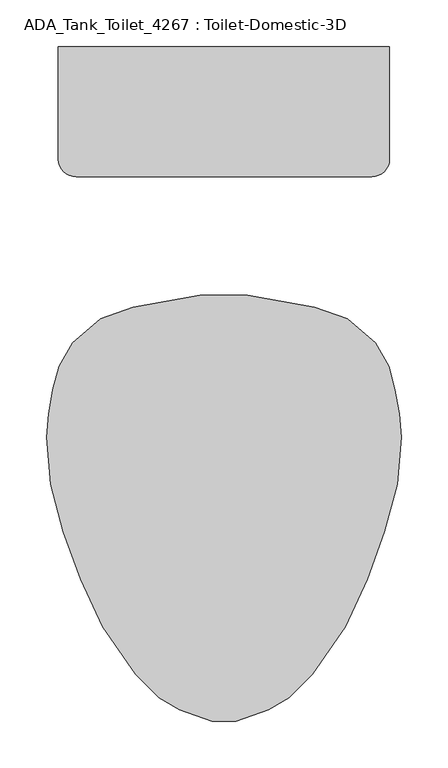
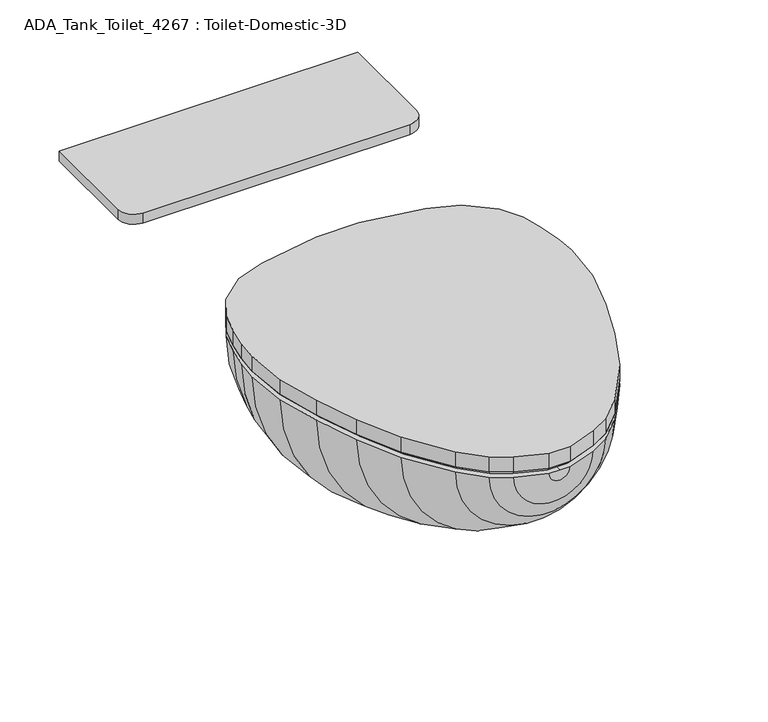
"""IFC4 building model written with IfcOpenShell, lengths in millimetres: flow terminal geometry, ADA_Tank_Toilet_4267 : Toilet-Domestic-3D."""

from ifc_helpers import new_model, si_unit, point, frame, frame_2d, origin, place, context, project, spatial, polyline, circle_curve, trimmed, segment, composite_curve, outline, extrude, faceted_brep, source, transform, mapped, element, save
from ifc_brep_helpers import plane_surface, revolved_surface, advanced_brep


def ada_tank_toilet_4267_toilet_domestic_3d_e2a5b10f(model_context):
    return source(origin(), model_context, "Body", "SolidModel", [
        advanced_brep(
        [(-25.4, 152.4, 444.5), (-97.4252791, 139.7, 444.5), (-132.3182423, 127.0, 444.5), (-162.5887836, 101.6, 444.5), (-176.9845865, 76.2, 444.5), (-183.790496, 50.8, 444.5), (-188.2862441, 25.3033453, 444.5), (-190.5, 0.0, 444.5), (-186.0724883, -50.6066907, 444.5), (-172.4088722, -101.6, 444.5), (-153.9191843, -152.4, 444.5), (-130.2307553, -203.2, 444.5), (-94.9900085, -254.0, 444.5), (-69.5900085, -279.4, 444.5), (-47.5929632, -292.1, 444.5), (-12.7, -304.8, 444.5), (0.0, -304.8, 444.5), (0.0, -284.592034, 444.5), (-12.5224565, -284.592034, 444.5), (-39.5113323, -274.7688865, 444.5), (-58.4178985, -263.8531754, 444.5), (-79.2146703, -243.0564036, 444.5), (-114.0255101, -192.8761202, 444.5), (-136.654021, -144.3491221, 444.5), (-154.575847, -95.1093097, 444.5), (-167.7238545, -46.0402777, 444.5), (-171.5645445, -2.1409906, 444.5), (-169.3087351, 23.6430284, 444.5), (-165.101298, 47.5045901, 444.5), (-159.5484355, 68.2281551, 444.5), (-146.1085923, 90.5605136, 444.5), (-121.9980886, 110.7916284, 444.5), (-94.1172813, 120.9394123, 444.5), (-22.0920022, 133.6394123, 444.5), (0.0, 133.6394123, 444.5), (0.0, 152.4, 444.5), (25.4, 152.4, 444.5), (22.0920022, 133.6394123, 444.5), (94.1172813, 120.9394123, 444.5), (121.9980886, 110.7916284, 444.5), (146.1085923, 90.5605136, 444.5), (159.5484355, 68.2281551, 444.5), (165.101298, 47.5045901, 444.5), (169.3087351, 23.6430284, 444.5), (171.5645445, -2.1409906, 444.5), (167.7238545, -46.0402777, 444.5), (154.575847, -95.1093097, 444.5), (136.654021, -144.3491221, 444.5), (114.0255101, -192.8761202, 444.5), (79.2146703, -243.0564036, 444.5), (58.4178985, -263.8531754, 444.5), (39.5113323, -274.7688865, 444.5), (12.5224565, -284.592034, 444.5), (12.7, -304.8, 444.5), (47.5929632, -292.1, 444.5), (69.5900085, -279.4, 444.5), (94.9900085, -254.0, 444.5), (130.2307553, -203.2, 444.5), (153.9191843, -152.4, 444.5), (172.4088722, -101.6, 444.5), (186.0724883, -50.6066907, 444.5), (190.5, 0.0, 444.5), (188.2862441, 25.3033453, 444.5), (183.790496, 50.8, 444.5), (176.9845865, 76.2, 444.5), (162.5887836, 101.6, 444.5), (132.3182423, 127.0, 444.5), (97.4252791, 139.7, 444.5)],
        [
            (0, 1),
            (1, 2),
            (2, 3),
            (3, 4),
            (4, 5),
            (5, 6),
            (6, 7),
            (7, 8),
            (8, 9),
            (9, 10),
            (10, 11),
            (11, 12),
            (12, 13),
            (13, 14),
            (14, 15),
            (15, 16),
            (16, 17),
            (17, 18),
            (18, 19),
            (19, 20),
            (20, 21),
            (21, 22),
            (22, 23),
            (23, 24),
            (24, 25),
            (25, 26),
            (26, 27),
            (27, 28),
            (28, 29),
            (29, 30),
            (30, 31),
            (31, 32),
            (32, 33),
            (33, 34),
            (34, 35),
            (35, 0),
            (36, 35),
            (34, 37),
            (37, 38),
            (38, 39),
            (39, 40),
            (40, 41),
            (41, 42),
            (42, 43),
            (43, 44),
            (44, 45),
            (45, 46),
            (46, 47),
            (47, 48),
            (48, 49),
            (49, 50),
            (50, 51),
            (51, 52),
            (52, 17),
            (16, 53),
            (53, 54),
            (54, 55),
            (55, 56),
            (56, 57),
            (57, 58),
            (58, 59),
            (59, 60),
            (60, 61),
            (61, 62),
            (62, 63),
            (63, 64),
            (64, 65),
            (65, 66),
            (66, 67),
            (67, 36),
            (67, 1, circle_curve(frame((0.0, 139.7, 444.5), z_axis=(0.0, 1.0, 0.0), x_axis=(-1.0, 0.0, 0.0)), 97.4252791)),
            (0, 36, circle_curve(frame((0.0, 152.4, 444.5), z_axis=(0.0, -1.0, 0.0), x_axis=(-1.0, 0.0, 0.0)), 25.4)),
            (66, 2, circle_curve(frame((0.0, 127.0, 444.5), z_axis=(0.0, 1.0, 0.0), x_axis=(-1.0, 0.0, 0.0)), 132.3182423)),
            (65, 3, circle_curve(frame((0.0, 101.6, 444.5), z_axis=(0.0, 1.0, 0.0), x_axis=(-1.0, 0.0, 0.0)), 162.5887836)),
            (64, 4, circle_curve(frame((0.0, 76.2, 444.5), z_axis=(0.0, 1.0, 0.0), x_axis=(-1.0, 0.0, 0.0)), 176.9845865)),
            (63, 5, circle_curve(frame((0.0, 50.8, 444.5), z_axis=(0.0, 1.0, 0.0), x_axis=(-1.0, 0.0, 0.0)), 183.790496)),
            (62, 6, circle_curve(frame((0.0, 25.3033453, 444.5), z_axis=(0.0, 1.0, 0.0), x_axis=(-1.0, 0.0, 0.0)), 188.2862441)),
            (61, 7, circle_curve(frame((0.0, 0.0, 444.5), z_axis=(0.0, 1.0, 0.0), x_axis=(-1.0, 0.0, 0.0)), 190.5)),
            (60, 8, circle_curve(frame((0.0, -50.6066907, 444.5), z_axis=(0.0, 1.0, 0.0), x_axis=(-1.0, 0.0, 0.0)), 186.0724883)),
            (59, 9, circle_curve(frame((0.0, -101.6, 444.5), z_axis=(0.0, 1.0, 0.0), x_axis=(-1.0, 0.0, 0.0)), 172.4088722)),
            (58, 10, circle_curve(frame((0.0, -152.4, 444.5), z_axis=(0.0, 1.0, 0.0), x_axis=(-1.0, 0.0, 0.0)), 153.9191843)),
            (57, 11, circle_curve(frame((0.0, -203.2, 444.5), z_axis=(0.0, 1.0, 0.0), x_axis=(-1.0, 0.0, 0.0)), 130.2307553)),
            (56, 12, circle_curve(frame((0.0, -254.0, 444.5), z_axis=(0.0, 1.0, 0.0), x_axis=(-1.0, 0.0, 0.0)), 94.9900085)),
            (55, 13, circle_curve(frame((0.0, -279.4, 444.5), z_axis=(0.0, 1.0, 0.0), x_axis=(-1.0, 0.0, 0.0)), 69.5900085)),
            (54, 14, circle_curve(frame((0.0, -292.1, 444.5), z_axis=(0.0, 1.0, 0.0), x_axis=(-1.0, 0.0, 0.0)), 47.5929632)),
            (53, 15, circle_curve(frame((0.0, -304.8, 444.5), z_axis=(0.0, 1.0, 0.0), x_axis=(-1.0, 0.0, 0.0)), 12.7)),
            (52, 18, circle_curve(frame((0.0, -284.592034, 444.5), z_axis=(0.0, 1.0, 0.0), x_axis=(-1.0, 0.0, 0.0)), 12.5224565)),
            (51, 19, circle_curve(frame((0.0, -274.7688865, 444.5), z_axis=(0.0, 1.0, 0.0), x_axis=(-1.0, 0.0, 0.0)), 39.5113323)),
            (50, 20, circle_curve(frame((0.0, -263.8531754, 444.5), z_axis=(0.0, 1.0, 0.0), x_axis=(-1.0, 0.0, 0.0)), 58.4178985)),
            (49, 21, circle_curve(frame((0.0, -243.0564036, 444.5), z_axis=(0.0, 1.0, 0.0), x_axis=(-1.0, 0.0, 0.0)), 79.2146703)),
            (48, 22, circle_curve(frame((0.0, -192.8761202, 444.5), z_axis=(0.0, 1.0, 0.0), x_axis=(-1.0, 0.0, 0.0)), 114.0255101)),
            (47, 23, circle_curve(frame((0.0, -144.3491221, 444.5), z_axis=(0.0, 1.0, 0.0), x_axis=(-1.0, 0.0, 0.0)), 136.654021)),
            (46, 24, circle_curve(frame((0.0, -95.1093097, 444.5), z_axis=(0.0, 1.0, 0.0), x_axis=(-1.0, 0.0, 0.0)), 154.575847)),
            (45, 25, circle_curve(frame((0.0, -46.0402777, 444.5), z_axis=(0.0, 1.0, 0.0), x_axis=(-1.0, 0.0, 0.0)), 167.7238545)),
            (44, 26, circle_curve(frame((0.0, -2.1409906, 444.5), z_axis=(0.0, 1.0, 0.0), x_axis=(-1.0, 0.0, 0.0)), 171.5645445)),
            (43, 27, circle_curve(frame((0.0, 23.6430284, 444.5), z_axis=(0.0, 1.0, 0.0), x_axis=(-1.0, 0.0, 0.0)), 169.3087351)),
            (42, 28, circle_curve(frame((0.0, 47.5045901, 444.5), z_axis=(0.0, 1.0, 0.0), x_axis=(-1.0, 0.0, 0.0)), 165.101298)),
            (41, 29, circle_curve(frame((0.0, 68.2281551, 444.5), z_axis=(0.0, 1.0, 0.0), x_axis=(-1.0, 0.0, 0.0)), 159.5484355)),
            (40, 30, circle_curve(frame((0.0, 90.5605136, 444.5), z_axis=(0.0, 1.0, 0.0), x_axis=(-1.0, 0.0, 0.0)), 146.1085923)),
            (39, 31, circle_curve(frame((0.0, 110.7916284, 444.5), z_axis=(0.0, 1.0, 0.0), x_axis=(-1.0, 0.0, 0.0)), 121.9980886)),
            (38, 32, circle_curve(frame((0.0, 120.9394123, 444.5), z_axis=(0.0, 1.0, 0.0), x_axis=(-1.0, 0.0, 0.0)), 94.1172813)),
            (37, 33, circle_curve(frame((0.0, 133.6394123, 444.5), z_axis=(0.0, 1.0, 0.0), x_axis=(-1.0, 0.0, 0.0)), 22.0920022)),
        ],
        [
            plane_surface(frame((0.0, 175.1599017, 444.5), z_axis=(0.0, 0.0, 1.0), x_axis=(-1.0, 0.0, 0.0))),
            plane_surface(frame((0.0, 175.1599017, 444.5), z_axis=(0.0, 0.0, 1.0), x_axis=(1.0, 0.0, 0.0))),
            revolved_surface(polyline([(-25.4, 152.4, 444.5), (-97.4252791, 139.7, 444.5)]), (0.0, 175.1599017, 444.5), (0.0, -1.0, 0.0)),
            revolved_surface(polyline([(-97.4252791, 139.7, 444.5), (-132.3182423, 127.0, 444.5)]), (0.0, 175.1599017, 444.5), (0.0, -1.0, 0.0)),
            revolved_surface(polyline([(-132.3182423, 127.0, 444.5), (-162.5887836, 101.6, 444.5)]), (0.0, 175.1599017, 444.5), (0.0, -1.0, 0.0)),
            revolved_surface(polyline([(-162.5887836, 101.6, 444.5), (-176.9845865, 76.2, 444.5)]), (0.0, 175.1599017, 444.5), (0.0, -1.0, 0.0)),
            revolved_surface(polyline([(-176.9845865, 76.2, 444.5), (-183.790496, 50.8, 444.5)]), (0.0, 175.1599017, 444.5), (0.0, -1.0, 0.0)),
            revolved_surface(polyline([(-183.790496, 50.8, 444.5), (-188.2862441, 25.3033453, 444.5)]), (0.0, 175.1599017, 444.5), (0.0, -1.0, 0.0)),
            revolved_surface(polyline([(-188.2862441, 25.3033453, 444.5), (-190.5, 0.0, 444.5)]), (0.0, 175.1599017, 444.5), (0.0, -1.0, 0.0)),
            revolved_surface(polyline([(-190.5, 0.0, 444.5), (-186.0724883, -50.6066907, 444.5)]), (0.0, 175.1599017, 444.5), (0.0, -1.0, 0.0)),
            revolved_surface(polyline([(-186.0724883, -50.6066907, 444.5), (-172.4088722, -101.6, 444.5)]), (0.0, 175.1599017, 444.5), (0.0, -1.0, 0.0)),
            revolved_surface(polyline([(-172.4088722, -101.6, 444.5), (-153.9191843, -152.4, 444.5)]), (0.0, 175.1599017, 444.5), (0.0, -1.0, 0.0)),
            revolved_surface(polyline([(-153.9191843, -152.4, 444.5), (-130.2307553, -203.2, 444.5)]), (0.0, 175.1599017, 444.5), (0.0, -1.0, 0.0)),
            revolved_surface(polyline([(-130.2307553, -203.2, 444.5), (-94.9900085, -254.0, 444.5)]), (0.0, 175.1599017, 444.5), (0.0, -1.0, 0.0)),
            revolved_surface(polyline([(-94.9900085, -254.0, 444.5), (-69.5900085, -279.4, 444.5)]), (0.0, 175.1599017, 444.5), (0.0, -1.0, 0.0)),
            revolved_surface(polyline([(-69.5900085, -279.4, 444.5), (-47.5929632, -292.1, 444.5)]), (0.0, 175.1599017, 444.5), (0.0, -1.0, 0.0)),
            revolved_surface(polyline([(-47.5929632, -292.1, 444.5), (-12.7, -304.8, 444.5)]), (0.0, 175.1599017, 444.5), (0.0, -1.0, 0.0)),
            plane_surface(frame((0.0, -304.8, 444.5), z_axis=(0.0, -1.0, 0.0), x_axis=(-1.0, 0.0, 0.0))),
            plane_surface(frame((0.0, -284.592034, 444.5), z_axis=(0.0, 1.0, 0.0), x_axis=(-1.0, 0.0, 0.0))),
            revolved_surface(polyline([(-12.5224565, -284.592034, 444.5), (-39.5113323, -274.7688865, 444.5)]), (0.0, 175.1599017, 444.5), (0.0, -1.0, 0.0)),
            revolved_surface(polyline([(-39.5113323, -274.7688865, 444.5), (-58.4178985, -263.8531754, 444.5)]), (0.0, 175.1599017, 444.5), (0.0, -1.0, 0.0)),
            revolved_surface(polyline([(-58.4178985, -263.8531754, 444.5), (-79.2146703, -243.0564036, 444.5)]), (0.0, 175.1599017, 444.5), (0.0, -1.0, 0.0)),
            revolved_surface(polyline([(-79.2146703, -243.0564036, 444.5), (-114.0255101, -192.8761202, 444.5)]), (0.0, 175.1599017, 444.5), (0.0, -1.0, 0.0)),
            revolved_surface(polyline([(-114.0255101, -192.8761202, 444.5), (-136.654021, -144.3491221, 444.5)]), (0.0, 175.1599017, 444.5), (0.0, -1.0, 0.0)),
            revolved_surface(polyline([(-136.654021, -144.3491221, 444.5), (-154.575847, -95.1093097, 444.5)]), (0.0, 175.1599017, 444.5), (0.0, -1.0, 0.0)),
            revolved_surface(polyline([(-154.575847, -95.1093097, 444.5), (-167.7238545, -46.0402777, 444.5)]), (0.0, 175.1599017, 444.5), (0.0, -1.0, 0.0)),
            revolved_surface(polyline([(-167.7238545, -46.0402777, 444.5), (-171.5645445, -2.1409906, 444.5)]), (0.0, 175.1599017, 444.5), (0.0, -1.0, 0.0)),
            revolved_surface(polyline([(-171.5645445, -2.1409906, 444.5), (-169.3087351, 23.6430284, 444.5)]), (0.0, 175.1599017, 444.5), (0.0, -1.0, 0.0)),
            revolved_surface(polyline([(-169.3087351, 23.6430284, 444.5), (-165.101298, 47.5045901, 444.5)]), (0.0, 175.1599017, 444.5), (0.0, -1.0, 0.0)),
            revolved_surface(polyline([(-165.101298, 47.5045901, 444.5), (-159.5484355, 68.2281551, 444.5)]), (0.0, 175.1599017, 444.5), (0.0, -1.0, 0.0)),
            revolved_surface(polyline([(-159.5484355, 68.2281551, 444.5), (-146.1085923, 90.5605136, 444.5)]), (0.0, 175.1599017, 444.5), (0.0, -1.0, 0.0)),
            revolved_surface(polyline([(-146.1085923, 90.5605136, 444.5), (-121.9980886, 110.7916284, 444.5)]), (0.0, 175.1599017, 444.5), (0.0, -1.0, 0.0)),
            revolved_surface(polyline([(-121.9980886, 110.7916284, 444.5), (-94.1172813, 120.9394123, 444.5)]), (0.0, 175.1599017, 444.5), (0.0, -1.0, 0.0)),
            revolved_surface(polyline([(-94.1172813, 120.9394123, 444.5), (-22.0920022, 133.6394123, 444.5)]), (0.0, 175.1599017, 444.5), (0.0, -1.0, 0.0)),
            plane_surface(frame((0.0, 133.6394123, 444.5), z_axis=(0.0, -1.0, 0.0), x_axis=(-1.0, 0.0, 0.0))),
            plane_surface(frame((0.0, 152.4, 444.5), z_axis=(0.0, 1.0, 0.0), x_axis=(-1.0, 0.0, 0.0))),
        ],
        [
            (0, [[1, 2, 3, 4, 5, 6, 7, 8, 9, 10, 11, 12, 13, 14, 15, 16, 17, 18, 19, 20, 21, 22, 23, 24, 25, 26, 27, 28, 29, 30, 31, 32, 33, 34, 35, 36]]),
            (1, [[37, -35, 38, 39, 40, 41, 42, 43, 44, 45, 46, 47, 48, 49, 50, 51, 52, 53, 54, -17, 55, 56, 57, 58, 59, 60, 61, 62, 63, 64, 65, 66, 67, 68, 69, 70]]),
            (2, [[71, -1, 72, -70]]),
            (3, [[73, -2, -71, -69]]),
            (4, [[74, -3, -73, -68]]),
            (5, [[75, -4, -74, -67]]),
            (6, [[76, -5, -75, -66]]),
            (7, [[77, -6, -76, -65]]),
            (8, [[78, -7, -77, -64]]),
            (9, [[79, -8, -78, -63]]),
            (10, [[80, -9, -79, -62]]),
            (11, [[81, -10, -80, -61]]),
            (12, [[82, -11, -81, -60]]),
            (13, [[83, -12, -82, -59]]),
            (14, [[84, -13, -83, -58]]),
            (15, [[85, -14, -84, -57]]),
            (16, [[86, -15, -85, -56]]),
            (17, [[-16, -86, -55]]),
            (18, [[87, -18, -54]]),
            (19, [[88, -19, -87, -53]]),
            (20, [[89, -20, -88, -52]]),
            (21, [[90, -21, -89, -51]]),
            (22, [[91, -22, -90, -50]]),
            (23, [[92, -23, -91, -49]]),
            (24, [[93, -24, -92, -48]]),
            (25, [[94, -25, -93, -47]]),
            (26, [[95, -26, -94, -46]]),
            (27, [[96, -27, -95, -45]]),
            (28, [[97, -28, -96, -44]]),
            (29, [[98, -29, -97, -43]]),
            (30, [[99, -30, -98, -42]]),
            (31, [[100, -31, -99, -41]]),
            (32, [[101, -32, -100, -40]]),
            (33, [[102, -33, -101, -39]]),
            (34, [[-34, -102, -38]]),
            (35, [[-72, -36, -37]]),
        ],
    ),
        faceted_brep([(-97.4252791, 139.7, 450.85), (-132.3182423, 127.0, 450.85), (-162.5887836, 101.6, 450.85), (-176.9845865, 76.2, 450.85), (-183.790496, 50.8, 450.85), (-188.2862441, 25.3033453, 450.85), (-190.5, 0.0, 450.85), (-186.0724883, -50.6066907, 450.85), (-172.4088722, -101.6, 450.85), (-153.9191843, -152.4, 450.85), (-130.2307553, -203.2, 450.85), (-94.9900085, -254.0, 450.85), (-69.5900085, -279.4, 450.85), (-47.5929632, -292.1, 450.85), (-12.7, -304.8, 450.85), (12.7, -304.8, 450.85), (47.5929632, -292.1, 450.85), (69.5900085, -279.4, 450.85), (94.9900085, -254.0, 450.85), (130.2307553, -203.2, 450.85), (153.9191843, -152.4, 450.85), (172.4088722, -101.6, 450.85), (186.0724883, -50.6066907, 450.85), (190.5, 0.0, 450.85), (188.2862441, 25.3033453, 450.85), (183.790496, 50.8, 450.85), (176.9845865, 76.2, 450.85), (162.5887836, 101.6, 450.85), (132.3182423, 127.0, 450.85), (97.4252791, 139.7, 450.85), (25.4, 152.4, 450.85), (-25.4, 152.4, 450.85), (-95.7755003, 133.5429415, 444.5), (-24.844447, 146.05, 444.5), (24.844447, 146.05, 444.5), (95.7755003, 133.5429415, 444.5), (129.0942628, 121.4159037, 444.5), (157.6293435, 97.472128, 444.5), (171.060664, 73.773864, 444.5), (177.5851102, 49.4242991, 444.5), (181.9845715, 24.4737144, 444.5), (184.125744, 0.0, 444.5), (179.7950716, -49.4998127, 444.5), (166.347, -99.688699, 444.5), (148.0469602, -149.9676451, 444.5), (124.7045808, -200.0255393, 444.5), (90.0971582, -249.9125941, 444.5), (65.691017, -274.3187354, 444.5), (44.8990862, -286.3229622, 444.5), (11.5803237, -298.45, 444.5), (-11.5803237, -298.45, 444.5), (-44.8990862, -286.3229622, 444.5), (-65.691017, -274.3187354, 444.5), (-90.0971582, -249.9125941, 444.5), (-124.7045808, -200.0255393, 444.5), (-148.0469602, -149.9676451, 444.5), (-166.347, -99.688699, 444.5), (-179.7950716, -49.4998127, 444.5), (-184.125744, 0.0, 444.5), (-181.9845715, 24.4737144, 444.5), (-177.5851102, 49.4242991, 444.5), (-171.060664, 73.773864, 444.5), (-157.6293435, 97.472128, 444.5), (-129.0942628, 121.4159037, 444.5)], [[[0, 1, 2, 3, 4, 5, 6, 7, 8, 9, 10, 11, 12, 13, 14, 15, 16, 17, 18, 19, 20, 21, 22, 23, 24, 25, 26, 27, 28, 29, 30, 31]], [[32, 33, 34, 35, 36, 37, 38, 39, 40, 41, 42, 43, 44, 45, 46, 47, 48, 49, 50, 51, 52, 53, 54, 55, 56, 57, 58, 59, 60, 61, 62, 63]], [[32, 63, 1, 0]], [[63, 62, 2, 1]], [[62, 61, 3, 2]], [[61, 60, 4, 3]], [[60, 59, 5, 4]], [[59, 58, 6, 5]], [[58, 57, 7, 6]], [[57, 56, 8, 7]], [[56, 55, 9, 8]], [[55, 54, 10, 9]], [[54, 53, 11, 10]], [[53, 52, 12, 11]], [[52, 51, 13, 12]], [[51, 50, 14, 13]], [[50, 49, 15, 14]], [[49, 48, 16, 15]], [[48, 47, 17, 16]], [[47, 46, 18, 17]], [[46, 45, 19, 18]], [[45, 44, 20, 19]], [[44, 43, 21, 20]], [[43, 42, 22, 21]], [[42, 41, 23, 22]], [[41, 40, 24, 23]], [[40, 39, 25, 24]], [[39, 38, 26, 25]], [[38, 37, 27, 26]], [[37, 36, 28, 27]], [[36, 35, 29, 28]], [[35, 34, 30, 29]], [[34, 33, 31, 30]], [[33, 32, 0, 31]]]),
        extrude(outline(composite_curve([segment(polyline([(177.8, 419.1), (177.8, 298.45)]), True, "CONTINUOUS"), segment(trimmed(circle_curve(frame_2d((158.75, 298.45)), 19.05), [point((177.8, 298.45))], [point((158.75, 279.4))], False, "CARTESIAN"), True, "CONTINUOUS"), segment(polyline([(158.75, 279.4), (-158.75, 279.4)]), True, "CONTINUOUS"), segment(trimmed(circle_curve(frame_2d((-158.75, 298.45)), 19.05), [point((-158.75, 279.4))], [point((-177.8, 298.45))], False, "CARTESIAN"), True, "CONTINUOUS"), segment(polyline([(-177.8, 298.45), (-177.8, 419.1), (177.8, 419.1)]), True, "CONTINUOUS")], self_intersect=False)), frame((0.0, 0.0, 457.2), z_axis=(0.0, 0.0, 1.0), x_axis=(1.0, 0.0, 0.0)), (0.0, 0.0, 1.0), 12.6007812),
        extrude(outline(polyline([(-162.5887836, 101.6), (-132.3182423, 127.0), (-97.4252791, 139.7), (-25.4, 152.4), (25.4, 152.4), (97.4252791, 139.7), (132.3182423, 127.0), (162.5887836, 101.6), (176.9845865, 76.2), (183.790496, 50.8), (188.2862441, 25.3033453), (190.5, 0.0), (186.0724883, -50.6066907), (172.4088722, -101.6), (153.9191843, -152.4), (130.2307553, -203.2), (94.9900085, -254.0), (69.5900085, -279.4), (47.5929632, -292.1), (12.7, -304.8), (-12.7, -304.8), (-47.5929632, -292.1), (-69.5900085, -279.4), (-94.9900085, -254.0), (-130.2307553, -203.2), (-153.9191843, -152.4), (-172.4088722, -101.6), (-186.0724883, -50.6066907), (-190.5, 0.0), (-188.2862441, 25.3033453), (-183.790496, 50.8), (-176.9845865, 76.2), (-162.5887836, 101.6)])), frame((0.0, 0.0, 450.85), z_axis=(0.0, 0.0, 1.0), x_axis=(1.0, 0.0, 0.0)), (0.0, 0.0, 1.0), 19.05),
    ])


if __name__ == "__main__":
    model = new_model("IFC4")
    model_context = context("Model", 3, world=origin())
    ifc_project = project(units=[si_unit("LENGTHUNIT", "METRE", prefix="MILLI")], contexts=[model_context])
    site = spatial("IfcSite", under=ifc_project)
    building = spatial("IfcBuilding", under=site)
    placement = place(None, origin())
    ada_tank_toilet_4267_toilet_domestic_3d_shape = ada_tank_toilet_4267_toilet_domestic_3d_e2a5b10f(model_context)
    element("IfcFlowTerminal", 1, ObjectType="ADA_Tank_Toilet_4267 : Toilet-Domestic-3D", at=placement, inside=building, context=model_context, shape_type="MappedRepresentation", body=[
        mapped(ada_tank_toilet_4267_toilet_domestic_3d_shape, transform((0.0, 0.0, 0.0), x_axis=(1.0, 0.0, 0.0), y_axis=(0.0, 1.0, 0.0), z_axis=(0.0, 0.0, 1.0))),
    ])
    save(model, "model.ifc")
